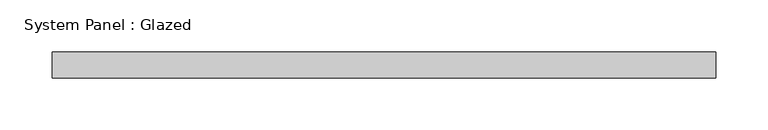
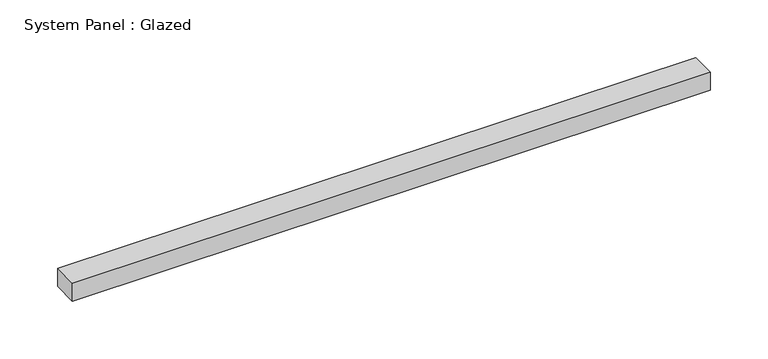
"""IFC4 building model written with IfcOpenShell, lengths in millimetres: plate geometry, System Panel : Glazed."""

from ifc_helpers import new_model, si_unit, origin, origin_with_axes, place, context, project, spatial, polyline, outline, extrude, source, transform, mapped, element, save


def system_panel_glazed_6ae58218(model_context):
    return source(origin(), model_context, "Body", "SweptSolid", [
        extrude(outline(polyline([(319.0875, 19.05), (-319.0875, 19.05), (-319.0875, 44.45), (319.0875, 44.45), (319.0875, 19.05)])), origin_with_axes(), (0.0, 0.0, 1.0), 19.05),
    ])


if __name__ == "__main__":
    model = new_model("IFC4")
    model_context = context("Model", 3, world=origin())
    ifc_project = project(units=[si_unit("LENGTHUNIT", "METRE", prefix="MILLI")], contexts=[model_context])
    site = spatial("IfcSite", under=ifc_project)
    building = spatial("IfcBuilding", under=site)
    placement = place(None, origin())
    system_panel_glazed_shape = system_panel_glazed_6ae58218(model_context)
    element("IfcPlate", 1, ObjectType="System Panel : Glazed", at=placement, inside=building, context=model_context, shape_type="MappedRepresentation", body=[
        mapped(system_panel_glazed_shape, transform((0.0, 0.0, 0.0), x_axis=(1.0, 0.0, 0.0), y_axis=(0.0, 1.0, 0.0), z_axis=(0.0, 0.0, 1.0))),
    ])
    save(model, "model.ifc")
